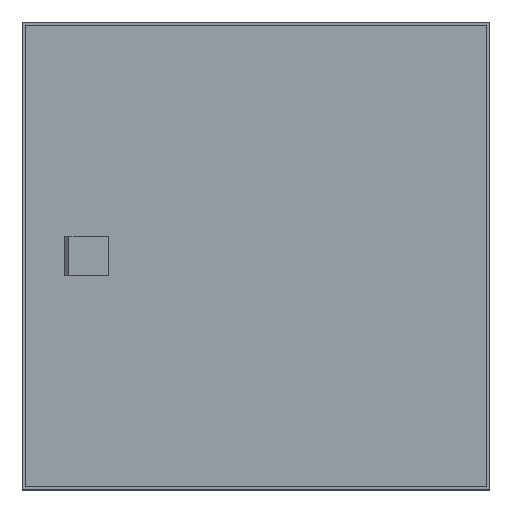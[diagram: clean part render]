
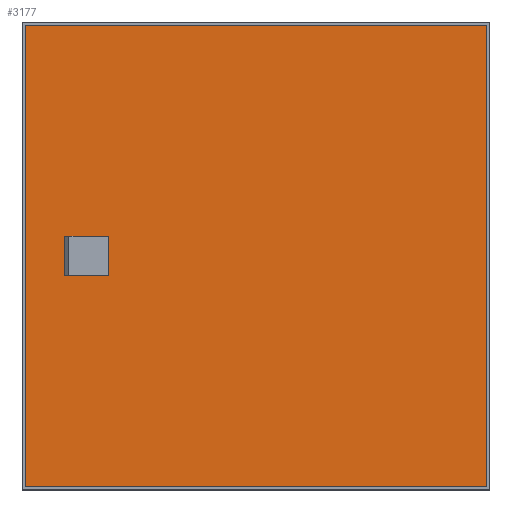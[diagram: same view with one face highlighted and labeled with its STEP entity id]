
A CAD part, top view. The second image highlights one B-rep face of the part: STEP entity #3177.
In plain terms, the highlighted planar face has unit normal (0, 0, 1).
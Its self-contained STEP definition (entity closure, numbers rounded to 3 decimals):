
#2803=FACE_BOUND('',#4127,.T.);
#2804=FACE_BOUND('',#4128,.T.);
#3177=ADVANCED_FACE('',(#2803,#2804),#3494,.T.);
#3494=PLANE('',#9493);
#4127=EDGE_LOOP('',(#4958,#4959,#4960,#4961));
#4128=EDGE_LOOP('',(#4962,#4963,#4964,#4965));
#4958=ORIENTED_EDGE('',*,*,#7181,.F.);
#4959=ORIENTED_EDGE('',*,*,#7182,.F.);
#4960=ORIENTED_EDGE('',*,*,#7183,.F.);
#4961=ORIENTED_EDGE('',*,*,#7184,.F.);
#4962=ORIENTED_EDGE('',*,*,#7185,.T.);
#4963=ORIENTED_EDGE('',*,*,#7186,.T.);
#4964=ORIENTED_EDGE('',*,*,#7187,.T.);
#4965=ORIENTED_EDGE('',*,*,#7188,.T.);
#6474=VERTEX_POINT('',#12284);
#6475=VERTEX_POINT('',#12285);
#6476=VERTEX_POINT('',#12287);
#6477=VERTEX_POINT('',#12289);
#6478=VERTEX_POINT('',#12292);
#6479=VERTEX_POINT('',#12293);
#6480=VERTEX_POINT('',#12295);
#6481=VERTEX_POINT('',#12297);
#7181=EDGE_CURVE('',#6474,#6475,#8037,.T.);
#7182=EDGE_CURVE('',#6476,#6474,#8038,.T.);
#7183=EDGE_CURVE('',#6477,#6476,#8039,.T.);
#7184=EDGE_CURVE('',#6475,#6477,#8040,.T.);
#7185=EDGE_CURVE('',#6478,#6479,#8041,.T.);
#7186=EDGE_CURVE('',#6479,#6480,#8042,.T.);
#7187=EDGE_CURVE('',#6480,#6481,#8043,.T.);
#7188=EDGE_CURVE('',#6481,#6478,#8044,.T.);
#8037=LINE('',#12283,#8781);
#8038=LINE('',#12286,#8782);
#8039=LINE('',#12288,#8783);
#8040=LINE('',#12290,#8784);
#8041=LINE('',#12291,#8785);
#8042=LINE('',#12294,#8786);
#8043=LINE('',#12296,#8787);
#8044=LINE('',#12298,#8788);
#8781=VECTOR('',#10436,1.);
#8782=VECTOR('',#10437,1.);
#8783=VECTOR('',#10438,1.);
#8784=VECTOR('',#10439,1.);
#8785=VECTOR('',#10440,1.);
#8786=VECTOR('',#10441,1.);
#8787=VECTOR('',#10442,1.);
#8788=VECTOR('',#10443,1.);
#9493=AXIS2_PLACEMENT_3D('',#12299,#10444,#10445);
#10436=DIRECTION('',(-1.,0.,0.));
#10437=DIRECTION('',(0.,1.,0.));
#10438=DIRECTION('',(1.,0.,0.));
#10439=DIRECTION('',(0.,-1.,0.));
#10440=DIRECTION('',(-1.,0.,0.));
#10441=DIRECTION('',(0.,-1.,0.));
#10442=DIRECTION('',(1.,0.,0.));
#10443=DIRECTION('',(0.,1.,0.));
#10444=DIRECTION('',(0.,0.,1.));
#10445=DIRECTION('',(-1.,0.,0.));
#12283=CARTESIAN_POINT('',(-128.95,11.05,0.));
#12284=CARTESIAN_POINT('',(-128.95,11.05,0.));
#12285=CARTESIAN_POINT('',(-151.05,11.05,0.));
#12286=CARTESIAN_POINT('',(-128.95,-11.05,0.));
#12287=CARTESIAN_POINT('',(-128.95,-11.05,0.));
#12288=CARTESIAN_POINT('',(-151.05,-11.05,0.));
#12289=CARTESIAN_POINT('',(-151.05,-11.05,0.));
#12290=CARTESIAN_POINT('',(-151.05,11.05,0.));
#12291=CARTESIAN_POINT('',(187.5,187.5,0.));
#12292=CARTESIAN_POINT('',(187.5,187.5,0.));
#12293=CARTESIAN_POINT('',(-187.5,187.5,0.));
#12294=CARTESIAN_POINT('',(-187.5,187.5,0.));
#12295=CARTESIAN_POINT('',(-187.5,-187.5,0.));
#12296=CARTESIAN_POINT('',(-187.5,-187.5,0.));
#12297=CARTESIAN_POINT('',(187.5,-187.5,0.));
#12298=CARTESIAN_POINT('',(187.5,-187.5,0.));
#12299=CARTESIAN_POINT('',(0.,0.,0.));
